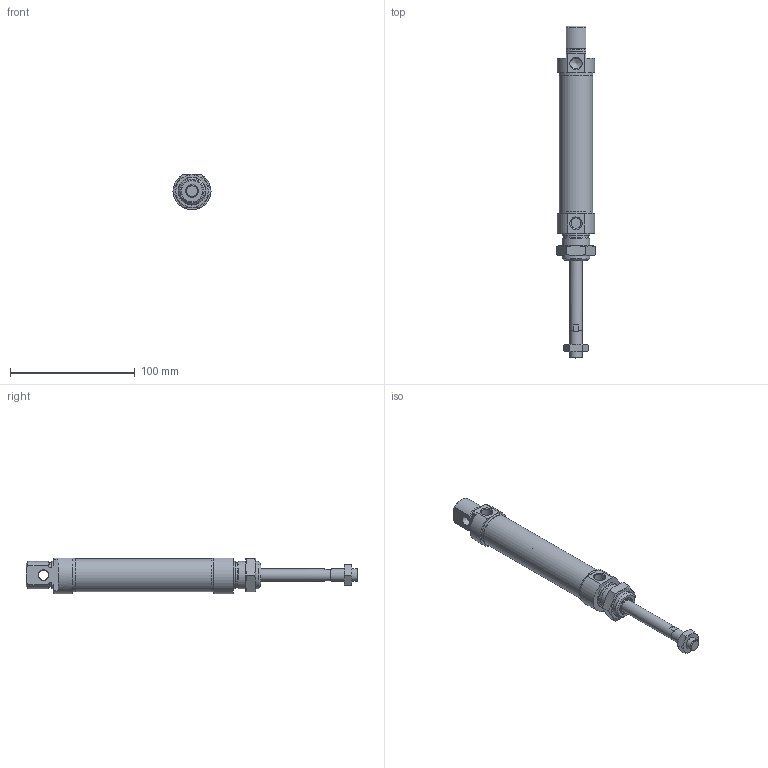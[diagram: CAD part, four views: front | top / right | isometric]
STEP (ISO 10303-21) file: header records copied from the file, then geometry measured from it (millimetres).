
FILE_DESCRIPTION(/* description */ ('Unknown'),/* implementation_level */ '2;1');
FILE_NAME(/* name */ 'REMV 25_50',/* time_stamp */ '2024-08-29T08:16:15+02:00',/* author */ ('Unknown'),/* organization */ ('Unknown'),/* preprocessor_version */ 'ST-DEVELOPER v16.7',/* originating_system */ 'Solid Edge',/* authorisation */ 'Unknown');
FILE_SCHEMA (('AUTOMOTIVE_DESIGN {1 0 10303 214 3 1 1}'));
Length unit declared in the file: millimetre
Products named in the file (7): REMV 25_50; Profilrohr; Kolbenstange; Kit_1; Kit_2; Mutter_1; Mutter_2
Assembly tree (6 placements, depth 2):
  REMV 25_50
    Profilrohr
    Kolbenstange
    Kit_1
    Kit_2
    Mutter_1
    Mutter_2
Bounding box: 31.18 x 266 x 28.45 mm (x, y, z)
Volume: 83026.5 mm3; surface area: 40661.5 mm2
Topology: 6 solids, 6 shells, 136 faces, 289 edges, 178 vertices
Faces by surface type: plane 55, cone 40, cylinder 34, torus 7
Full cylindrical faces by diameter (mm): 8 x1, 8.56 x1, 8.566 x2, 8.647 x1, 10 x2, 10.5 x1, 11.1 x1, 14 x1, 14.1 x1, 16.1 x1, 16.2 x1, 19.7 x1, 20.376 x1, 22 x2, 25 x2, 26.5 x1, 27 x2
Entity records: 4327 total; most frequent: CARTESIAN_POINT 639, DIRECTION 582, ORIENTED_EDGE 452, AXIS2_PLACEMENT_3D 259, EDGE_CURVE 226, FACE_BOUND 211, EDGE_LOOP 210, VERTEX_POINT 169
